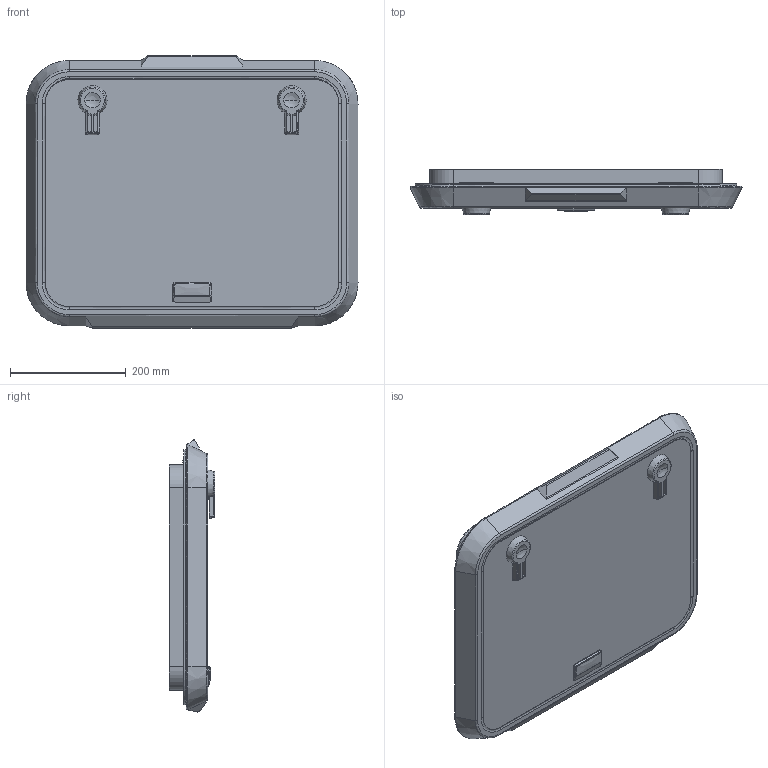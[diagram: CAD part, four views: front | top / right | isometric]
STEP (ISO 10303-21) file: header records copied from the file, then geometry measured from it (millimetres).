
FILE_DESCRIPTION((''),'2;1');
FILE_NAME('LEWMAR_HATCH_OCEAN_54_FLANGE_ASM','2008-02-21T',('skennedy'),(''),'PRO/ENGINEER BY PARAMETRIC TECHNOLOGY CORPORATION, 2007030','PRO/ENGINEER BY PARAMETRIC TECHNOLOGY CORPORATION, 2007030','');
FILE_SCHEMA(('CONFIG_CONTROL_DESIGN'));
Length unit declared in the file: millimetre
Products named in the file (6): OCEAN_ACRYLIC_54; OCEAN_LARGE_HINGE_LEVER_1; FRAME_54_FLANGE; OCEAN_LARGE_HANDLE_1; OCEAN_LARGE_HANDLE_2; LEWMAR_HATCH_OCEAN_54_FLANGE_ASM
Assembly tree (5 placements, depth 2):
  LEWMAR_HATCH_OCEAN_54_FLANGE_ASM
    OCEAN_ACRYLIC_54
    OCEAN_LARGE_HINGE_LEVER_1
    FRAME_54_FLANGE
    OCEAN_LARGE_HANDLE_1
    OCEAN_LARGE_HANDLE_2
Bounding box: 573.99 x 79 x 470.35 mm (x, y, z)
Volume: 2466368.2 mm3; surface area: 936372.8 mm2
Topology: 6 solids, 7 shells, 771 faces, 1868 edges, 1116 vertices
Faces by surface type: bspline 279, plane 240, cylinder 158, cone 33, torus 32, sphere 22, extrusion 7
Entity records: 31018 total; most frequent: CARTESIAN_POINT 14622, ORIENTED_EDGE 3712, DIRECTION 2755, EDGE_CURVE 1864, VERTEX_POINT 1116, AXIS2_PLACEMENT_3D 934, VECTOR 887, LINE 880
